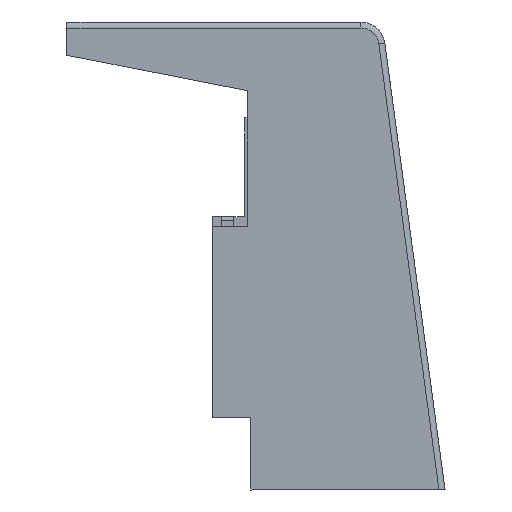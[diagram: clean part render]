
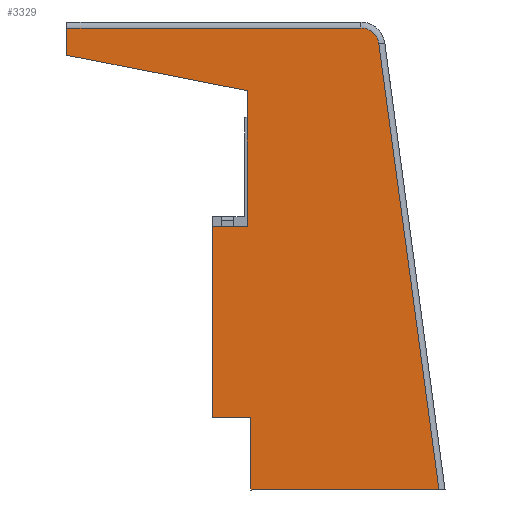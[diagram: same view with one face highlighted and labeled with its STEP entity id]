
A CAD part, front view. The second image highlights one B-rep face of the part: STEP entity #3329.
In plain terms, the highlighted planar face has unit normal (0, -1, 0).
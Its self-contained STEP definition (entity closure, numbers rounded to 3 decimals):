
#307 = EDGE_CURVE ( 'NONE', #3534, #5553, #830, .T. ) ;
#310 = VERTEX_POINT ( 'NONE', #320 ) ;
#320 = CARTESIAN_POINT ( 'NONE',  ( 25.86, -57.225, 14.29 ) ) ;
#329 = DIRECTION ( 'NONE',  ( 0., -1., 0. ) ) ;
#372 = LINE ( 'NONE', #915, #3779 ) ;
#410 = DIRECTION ( 'NONE',  ( 1., 0., 0. ) ) ;
#548 = CARTESIAN_POINT ( 'NONE',  ( 22.66, -57.225, 49.59 ) ) ;
#555 = EDGE_CURVE ( 'NONE', #5628, #4447, #4339, .T. ) ;
#587 = CARTESIAN_POINT ( 'NONE',  ( 34.962, -57.225, 46.499 ) ) ;
#636 = CARTESIAN_POINT ( 'NONE',  ( 25.86, -57.225, 8.29 ) ) ;
#794 = CARTESIAN_POINT ( 'NONE',  ( 42.66, -57.225, 8.29 ) ) ;
#830 = LINE ( 'NONE', #5432, #4170 ) ;
#840 = CARTESIAN_POINT ( 'NONE',  ( 34.962, -57.225, 44.999 ) ) ;
#901 = DIRECTION ( 'NONE',  ( 0., 0., 1. ) ) ;
#915 = CARTESIAN_POINT ( 'NONE',  ( 25.86, -57.225, 14.29 ) ) ;
#922 = PLANE ( 'NONE',  #6255 ) ;
#1072 = VECTOR ( 'NONE', #3836, 1000. ) ;
#1073 = LINE ( 'NONE', #3605, #2909 ) ;
#1197 = VECTOR ( 'NONE', #1978, 1000. ) ;
#1259 = VERTEX_POINT ( 'NONE', #4118 ) ;
#1316 = VECTOR ( 'NONE', #4110, 1000. ) ;
#1318 = LINE ( 'NONE', #636, #6141 ) ;
#1384 = EDGE_CURVE ( 'NONE', #5553, #4447, #5539, .T. ) ;
#1403 = CARTESIAN_POINT ( 'NONE',  ( 40.545, -57.225, 38.359 ) ) ;
#1563 = DIRECTION ( 'NONE',  ( 0., 0., 1. ) ) ;
#1750 = CIRCLE ( 'NONE', #3124, 1.5 ) ;
#1801 = CARTESIAN_POINT ( 'NONE',  ( 10.66, -57.225, 49.09 ) ) ;
#1822 = EDGE_CURVE ( 'NONE', #1889, #5546, #5365, .T. ) ;
#1889 = VERTEX_POINT ( 'NONE', #2860 ) ;
#1978 = DIRECTION ( 'NONE',  ( -0.981, 0., 0.193 ) ) ;
#1999 = ORIENTED_EDGE ( 'NONE', *, *, #6074, .T. ) ;
#2419 = DIRECTION ( 'NONE',  ( -1., 0., 0. ) ) ;
#2549 = EDGE_CURVE ( 'NONE', #5546, #3118, #1073, .T. ) ;
#2819 = VECTOR ( 'NONE', #1563, 1000. ) ;
#2860 = CARTESIAN_POINT ( 'NONE',  ( 25.86, -57.225, 8.29 ) ) ;
#2909 = VECTOR ( 'NONE', #6124, 1000. ) ;
#2915 = EDGE_CURVE ( 'NONE', #1259, #5610, #6280, .T. ) ;
#2951 = DIRECTION ( 'NONE',  ( 0., -1., 0. ) ) ;
#2958 = CARTESIAN_POINT ( 'NONE',  ( 25.56, -57.225, 41.313 ) ) ;
#2964 = VERTEX_POINT ( 'NONE', #587 ) ;
#3118 = VERTEX_POINT ( 'NONE', #4055 ) ;
#3124 = AXIS2_PLACEMENT_3D ( 'NONE', #840, #329, #6500 ) ;
#3173 = EDGE_CURVE ( 'NONE', #1889, #310, #1318, .T. ) ;
#3329 = ADVANCED_FACE ( 'NONE', ( #4983 ), #922, .T. ) ;
#3445 = ORIENTED_EDGE ( 'NONE', *, *, #2915, .F. ) ;
#3534 = VERTEX_POINT ( 'NONE', #6231 ) ;
#3605 = CARTESIAN_POINT ( 'NONE',  ( 36.371, -57.225, 45.774 ) ) ;
#3765 = CARTESIAN_POINT ( 'NONE',  ( 10.66, -57.225, 44.25 ) ) ;
#3779 = VECTOR ( 'NONE', #2419, 1000. ) ;
#3828 = EDGE_CURVE ( 'NONE', #5610, #3534, #6022, .T. ) ;
#3836 = DIRECTION ( 'NONE',  ( 0., 0., -1. ) ) ;
#3975 = CARTESIAN_POINT ( 'NONE',  ( 42.66, -57.225, 30.09 ) ) ;
#4021 = CARTESIAN_POINT ( 'NONE',  ( 42.66, -57.225, 46.499 ) ) ;
#4055 = CARTESIAN_POINT ( 'NONE',  ( 36.448, -57.225, 45.2 ) ) ;
#4057 = CARTESIAN_POINT ( 'NONE',  ( 42.66, -57.225, 49.09 ) ) ;
#4084 = ORIENTED_EDGE ( 'NONE', *, *, #3828, .F. ) ;
#4110 = DIRECTION ( 'NONE',  ( 1., 0., 0. ) ) ;
#4118 = CARTESIAN_POINT ( 'NONE',  ( 22.66, -57.225, 14.29 ) ) ;
#4170 = VECTOR ( 'NONE', #901, 1000. ) ;
#4261 = ORIENTED_EDGE ( 'NONE', *, *, #1822, .T. ) ;
#4339 = LINE ( 'NONE', #1801, #1072 ) ;
#4351 = ORIENTED_EDGE ( 'NONE', *, *, #2549, .T. ) ;
#4390 = CARTESIAN_POINT ( 'NONE',  ( 10.66, -57.225, 46.499 ) ) ;
#4447 = VERTEX_POINT ( 'NONE', #3765 ) ;
#4454 = DIRECTION ( 'NONE',  ( -1., 0., 0. ) ) ;
#4466 = CARTESIAN_POINT ( 'NONE',  ( 41.427, -57.225, 8.29 ) ) ;
#4740 = VECTOR ( 'NONE', #4454, 1000. ) ;
#4752 = ORIENTED_EDGE ( 'NONE', *, *, #5223, .T. ) ;
#4866 = DIRECTION ( 'NONE',  ( 1., 0., 0. ) ) ;
#4983 = FACE_OUTER_BOUND ( 'NONE', #5677, .T. ) ;
#5105 = ORIENTED_EDGE ( 'NONE', *, *, #307, .F. ) ;
#5137 = ORIENTED_EDGE ( 'NONE', *, *, #555, .T. ) ;
#5163 = CARTESIAN_POINT ( 'NONE',  ( 22.66, -57.225, 30.09 ) ) ;
#5166 = EDGE_CURVE ( 'NONE', #310, #1259, #372, .T. ) ;
#5223 = EDGE_CURVE ( 'NONE', #3118, #2964, #1750, .T. ) ;
#5365 = LINE ( 'NONE', #794, #6440 ) ;
#5432 = CARTESIAN_POINT ( 'NONE',  ( 25.56, -57.225, 49.09 ) ) ;
#5441 = ORIENTED_EDGE ( 'NONE', *, *, #3173, .F. ) ;
#5539 = LINE ( 'NONE', #1403, #1197 ) ;
#5546 = VERTEX_POINT ( 'NONE', #4466 ) ;
#5553 = VERTEX_POINT ( 'NONE', #2958 ) ;
#5610 = VERTEX_POINT ( 'NONE', #5163 ) ;
#5628 = VERTEX_POINT ( 'NONE', #4390 ) ;
#5677 = EDGE_LOOP ( 'NONE', ( #5803, #5105, #4084, #3445, #6244, #5441, #4261, #4351, #4752, #1999, #5137 ) ) ;
#5803 = ORIENTED_EDGE ( 'NONE', *, *, #1384, .F. ) ;
#6022 = LINE ( 'NONE', #3975, #1316 ) ;
#6074 = EDGE_CURVE ( 'NONE', #2964, #5628, #6532, .T. ) ;
#6091 = DIRECTION ( 'NONE',  ( 0., 0., 1. ) ) ;
#6124 = DIRECTION ( 'NONE',  ( -0.134, 0., 0.991 ) ) ;
#6141 = VECTOR ( 'NONE', #6091, 1000. ) ;
#6231 = CARTESIAN_POINT ( 'NONE',  ( 25.56, -57.225, 30.09 ) ) ;
#6244 = ORIENTED_EDGE ( 'NONE', *, *, #5166, .F. ) ;
#6255 = AXIS2_PLACEMENT_3D ( 'NONE', #4057, #2951, #410 ) ;
#6280 = LINE ( 'NONE', #548, #2819 ) ;
#6440 = VECTOR ( 'NONE', #4866, 1000. ) ;
#6500 = DIRECTION ( 'NONE',  ( 1., 0., 0. ) ) ;
#6532 = LINE ( 'NONE', #4021, #4740 ) ;
